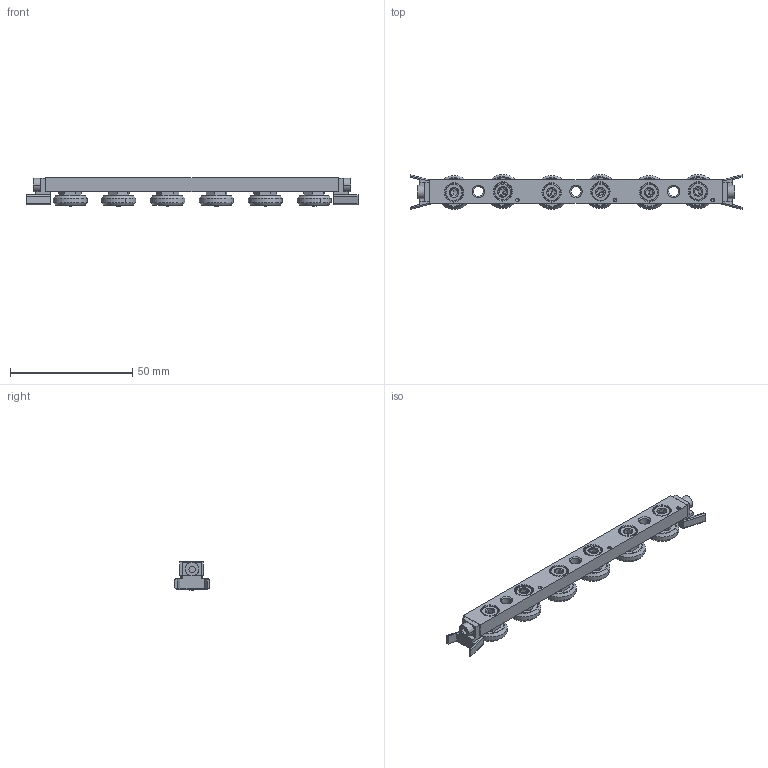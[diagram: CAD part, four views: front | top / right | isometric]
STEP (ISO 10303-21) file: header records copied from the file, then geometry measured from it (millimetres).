
FILE_DESCRIPTION (( 'STEP AP203' ), '1' );
FILE_NAME ('L1918.CSW18-120-2ZUA.step', '2019-06-29T22:07:00', ( '' ), ( '' ), 'SwSTEP 2.0', 'SolidWorks 2017', '' );
FILE_SCHEMA (( 'CONFIG_CONTROL_DESIGN' ));
Length unit declared in the file: millimetre
Products named in the file (6): Part8; Part2; Part1_L1918.CSW18-120-2ZUA; Part3; Part7; L1918.CSW18-120-2ZUA
Assembly tree (20 placements, depth 2):
  L1918.CSW18-120-2ZUA
    Part1_L1918.CSW18-120-2ZUA
    Part8  x11
    Part2  x3
    Part3  x3
    Part7  x2
Bounding box: 136 x 14.32 x 11.54 mm (x, y, z)
Volume: 10747.7 mm3; surface area: 10670.5 mm2
Topology: 20 solids, 20 shells, 624 faces, 1434 edges, 874 vertices
Faces by surface type: plane 308, cone 170, cylinder 112, torus 34
Entity records: 7323 total; most frequent: CARTESIAN_POINT 1167, DIRECTION 1160, ORIENTED_EDGE 984, EDGE_CURVE 492, AXIS2_PLACEMENT_3D 448, VERTEX_POINT 314, EDGE_LOOP 266, LINE 264
